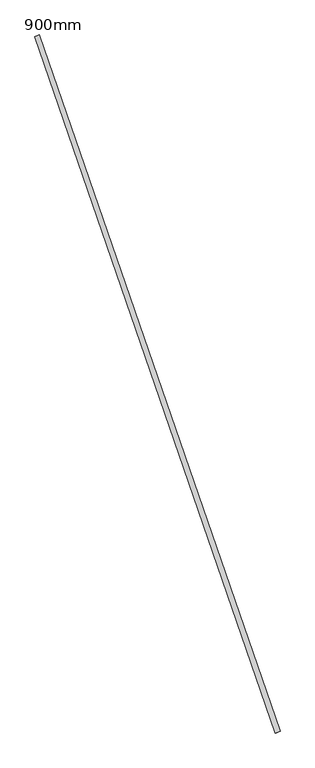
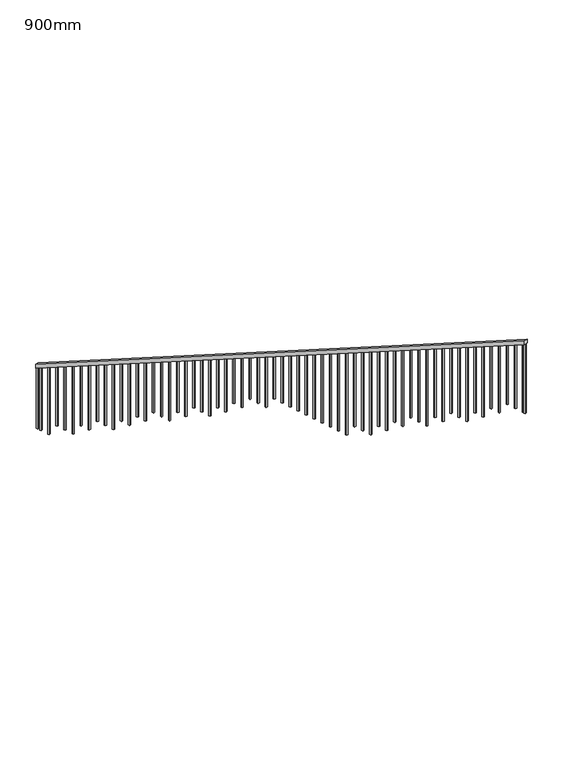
"""IFC4 building model written with IfcOpenShell, lengths in millimetres: railing geometry, 900mm."""

from ifc_helpers import new_model, si_unit, frame, origin, place, context, project, spatial, polyline, outline, extrude, source, transform, mapped, element, save


def railing_900mm_f19e5628(model_context):
    return source(origin(), model_context, "Body", "SweptSolid", [
        extrude(outline(polyline([(25.1552795, -49.9999999), (0.0, 0.0), (8507.6398583, 0.0), (8532.7951378, -50.0), (25.1552795, -49.9999999)])), frame((503059.9445463, 37388.9550801, 1045.2709212), z_axis=(0.9452094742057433, 0.3264644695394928, 0.0), x_axis=(0.2916355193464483, -0.8443695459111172, 0.44943163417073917)), (0.0, 0.0, 1.0), 50.0),
        extrude(outline(polyline([(1076.0939025, 20.0), (1076.0939025, 0.0), (94.9689441, 0.0), (105.0310559, 20.0), (1076.0939025, 20.0)])), frame((505546.274884, 30236.2533037, 4950.006946), z_axis=(0.9452094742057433, 0.3264644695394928, 0.0), x_axis=(0.0, 0.0, -1.0)), (0.0, 0.0, 1.0), 20.0),
        extrude(outline(polyline([(1013.2057038, 20.0), (1013.2057038, 0.0), (94.9689441, 0.0), (105.0310559, 20.0), (1013.2057038, 20.0)])), frame((505505.4668253, 30354.404488, 4887.1187473), z_axis=(0.9452094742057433, 0.3264644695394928, 0.0), x_axis=(0.0, 0.0, -1.0)), (0.0, 0.0, 1.0), 20.0),
        extrude(outline(polyline([(950.317505, 20.0), (950.317505, 0.0), (94.9689441, 0.0), (105.0310559, 20.0), (950.317505, 20.0)])), frame((505464.6587667, 30472.5556723, 4824.2305485), z_axis=(0.9452094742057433, 0.3264644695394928, 0.0), x_axis=(0.0, 0.0, -1.0)), (0.0, 0.0, 1.0), 20.0),
        extrude(outline(polyline([(1063.5162627, 20.0), (1063.5162627, 0.0), (94.9689441, 0.0), (105.0310559, 20.0), (1063.5162627, 20.0)])), frame((505423.850708, 30590.7068566, 4761.3423497), z_axis=(0.9452094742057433, 0.3264644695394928, 0.0), x_axis=(0.0, 0.0, -1.0)), (0.0, 0.0, 1.0), 20.0),
        extrude(outline(polyline([(1000.628064, 19.9999999), (1000.628064, 0.0), (94.9689441, 0.0), (105.0310559, 19.9999999), (1000.628064, 19.9999999)])), frame((505383.0426493, 30708.8580409, 4698.454151), z_axis=(0.9452094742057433, 0.3264644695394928, 0.0), x_axis=(0.0, 0.0, -1.0)), (0.0, 0.0, 1.0), 20.0),
        extrude(outline(polyline([(1113.8268218, 20.0), (1113.8268218, 0.0), (94.9689441, 0.0), (105.0310559, 20.0), (1113.8268218, 20.0)])), frame((505342.2345906, 30827.0092251, 4635.5659522), z_axis=(0.9452094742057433, 0.3264644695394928, 0.0), x_axis=(0.0, 0.0, -1.0)), (0.0, 0.0, 1.0), 20.0),
        extrude(outline(polyline([(1050.9386231, 20.0), (1050.9386231, 0.0), (94.9689441, 0.0), (105.0310559, 20.0), (1050.9386231, 20.0)])), frame((505301.4265319, 30945.1604094, 4572.6777535), z_axis=(0.9452094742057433, 0.3264644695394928, 0.0), x_axis=(0.0, 0.0, -1.0)), (0.0, 0.0, 1.0), 20.0),
        extrude(outline(polyline([(1164.1373808, 20.0), (1164.1373808, 0.0), (94.9689441, 0.0), (105.0310559, 20.0), (1164.1373808, 20.0)])), frame((505260.6184732, 31063.3115937, 4509.7895547), z_axis=(0.9452094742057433, 0.3264644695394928, 0.0), x_axis=(0.0, 0.0, -1.0)), (0.0, 0.0, 1.0), 20.0),
        extrude(outline(polyline([(1101.249182, 19.9999999), (1101.249182, 0.0), (94.9689441, 0.0), (105.0310559, 19.9999999), (1101.249182, 19.9999999)])), frame((505219.8104145, 31181.462778, 4446.9013559), z_axis=(0.9452094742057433, 0.3264644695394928, 0.0), x_axis=(0.0, 0.0, -1.0)), (0.0, 0.0, 1.0), 20.0),
        extrude(outline(polyline([(1038.3609833, 20.0), (1038.3609833, 0.0), (94.9689441, 0.0), (105.0310559, 20.0), (1038.3609833, 20.0)])), frame((505179.0023558, 31299.6139622, 4384.0131572), z_axis=(0.9452094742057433, 0.3264644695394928, 0.0), x_axis=(0.0, 0.0, -1.0)), (0.0, 0.0, 1.0), 20.0),
        extrude(outline(polyline([(1151.559741, 20.0), (1151.559741, 0.0), (94.9689441, 0.0), (105.0310559, 20.0), (1151.559741, 20.0)])), frame((505138.1942971, 31417.7651465, 4321.1249584), z_axis=(0.9452094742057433, 0.3264644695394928, 0.0), x_axis=(0.0, 0.0, -1.0)), (0.0, 0.0, 1.0), 20.0),
        extrude(outline(polyline([(1088.6715423, 20.0), (1088.6715423, 0.0), (94.9689441, 0.0), (105.0310559, 20.0), (1088.6715423, 20.0)])), frame((505097.3862384, 31535.9163308, 4258.2367597), z_axis=(0.9452094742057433, 0.3264644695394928, 0.0), x_axis=(0.0, 0.0, -1.0)), (0.0, 0.0, 1.0), 20.0),
        extrude(outline(polyline([(1201.8703, 19.9999999), (1201.8703, 0.0), (94.9689441, 0.0), (105.0310559, 19.9999999), (1201.8703, 19.9999999)])), frame((505056.5781797, 31654.0675151, 4195.3485609), z_axis=(0.9452094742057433, 0.3264644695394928, 0.0), x_axis=(0.0, 0.0, -1.0)), (0.0, 0.0, 1.0), 20.0),
        extrude(outline(polyline([(1138.9821013, 20.0), (1138.9821013, 0.0), (94.9689441, 0.0), (105.0310559, 20.0), (1138.9821013, 20.0)])), frame((505015.770121, 31772.2186993, 4132.4603622), z_axis=(0.9452094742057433, 0.3264644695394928, 0.0), x_axis=(0.0, 0.0, -1.0)), (0.0, 0.0, 1.0), 20.0),
        extrude(outline(polyline([(1076.0939025, 20.0), (1076.0939025, 0.0), (94.9689441, 0.0), (105.0310559, 20.0), (1076.0939025, 20.0)])), frame((504974.9620623, 31890.3698836, 4069.5721634), z_axis=(0.9452094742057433, 0.3264644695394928, 0.0), x_axis=(0.0, 0.0, -1.0)), (0.0, 0.0, 1.0), 20.0),
        extrude(outline(polyline([(1189.2926603, 20.0), (1189.2926603, 0.0), (94.9689441, 0.0), (105.0310559, 20.0), (1189.2926603, 20.0)])), frame((504934.1540037, 32008.5210679, 4006.6839646), z_axis=(0.9452094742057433, 0.3264644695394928, 0.0), x_axis=(0.0, 0.0, -1.0)), (0.0, 0.0, 1.0), 20.0),
        extrude(outline(polyline([(1126.4044616, 19.9999999), (1126.4044616, 0.0), (94.9689441, 0.0), (105.0310559, 19.9999999), (1126.4044616, 19.9999999)])), frame((504893.345945, 32126.6722522, 3943.7957659), z_axis=(0.9452094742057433, 0.3264644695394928, 0.0), x_axis=(0.0, 0.0, -1.0)), (0.0, 0.0, 1.0), 20.0),
        extrude(outline(polyline([(1239.6032193, 20.0), (1239.6032193, 0.0), (94.9689441, 0.0), (105.0310559, 20.0), (1239.6032193, 20.0)])), frame((504852.5378863, 32244.8234364, 3880.9075671), z_axis=(0.9452094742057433, 0.3264644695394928, 0.0), x_axis=(0.0, 0.0, -1.0)), (0.0, 0.0, 1.0), 20.0),
        extrude(outline(polyline([(1176.7150206, 20.0), (1176.7150206, 0.0), (94.9689441, 0.0), (105.0310559, 20.0), (1176.7150206, 20.0)])), frame((504811.7298276, 32362.9746207, 3818.0193684), z_axis=(0.9452094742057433, 0.3264644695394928, 0.0), x_axis=(0.0, 0.0, -1.0)), (0.0, 0.0, 1.0), 20.0),
        extrude(outline(polyline([(1289.9137783, 20.0), (1289.9137783, 0.0), (94.9689441, 0.0), (105.0310559, 20.0), (1289.9137783, 20.0)])), frame((504770.9217689, 32481.125805, 3755.1311696), z_axis=(0.9452094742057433, 0.3264644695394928, 0.0), x_axis=(0.0, 0.0, -1.0)), (0.0, 0.0, 1.0), 20.0),
        extrude(outline(polyline([(1227.0255796, 19.9999999), (1227.0255796, 0.0), (94.9689441, 0.0), (105.0310559, 19.9999999), (1227.0255796, 19.9999999)])), frame((504730.1137102, 32599.2769893, 3692.2429709), z_axis=(0.9452094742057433, 0.3264644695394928, 0.0), x_axis=(0.0, 0.0, -1.0)), (0.0, 0.0, 1.0), 20.0),
        extrude(outline(polyline([(1164.1373808, 20.0), (1164.1373808, 0.0), (94.9689441, 0.0), (105.0310559, 20.0), (1164.1373808, 20.0)])), frame((504689.3056515, 32717.4281735, 3629.3547721), z_axis=(0.9452094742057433, 0.3264644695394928, 0.0), x_axis=(0.0, 0.0, -1.0)), (0.0, 0.0, 1.0), 20.0),
        extrude(outline(polyline([(1277.3361385, 20.0), (1277.3361385, 0.0), (94.9689441, 0.0), (105.0310559, 20.0), (1277.3361385, 20.0)])), frame((504648.4975928, 32835.5793578, 3566.4665733), z_axis=(0.9452094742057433, 0.3264644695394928, 0.0), x_axis=(0.0, 0.0, -1.0)), (0.0, 0.0, 1.0), 20.0),
        extrude(outline(polyline([(1214.4479398, 20.0), (1214.4479398, 0.0), (94.9689441, 0.0), (105.0310559, 20.0), (1214.4479398, 20.0)])), frame((504607.6895341, 32953.7305421, 3503.5783746), z_axis=(0.9452094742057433, 0.3264644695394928, 0.0), x_axis=(0.0, 0.0, -1.0)), (0.0, 0.0, 1.0), 20.0),
        extrude(outline(polyline([(1151.559741, 20.0), (1151.559741, 0.0), (94.9689441, 0.0), (105.0310559, 20.0), (1151.559741, 20.0)])), frame((504566.8814754, 33071.8817264, 3440.6901758), z_axis=(0.9452094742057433, 0.3264644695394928, 0.0), x_axis=(0.0, 0.0, -1.0)), (0.0, 0.0, 1.0), 20.0),
        extrude(outline(polyline([(1088.6715423, 20.0), (1088.6715423, 0.0), (94.9689441, 0.0), (105.0310559, 20.0), (1088.6715423, 20.0)])), frame((504526.0734167, 33190.0329106, 3377.8019771), z_axis=(0.9452094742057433, 0.3264644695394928, 0.0), x_axis=(0.0, 0.0, -1.0)), (0.0, 0.0, 1.0), 20.0),
        extrude(outline(polyline([(1025.7833435, 20.0), (1025.7833435, 0.0), (94.9689441, 0.0), (105.0310559, 20.0), (1025.7833435, 20.0)])), frame((504485.265358, 33308.1840949, 3314.9137783), z_axis=(0.9452094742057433, 0.3264644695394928, 0.0), x_axis=(0.0, 0.0, -1.0)), (0.0, 0.0, 1.0), 20.0),
        extrude(outline(polyline([(962.8951448, 20.0), (962.8951448, 0.0), (94.9689441, 0.0), (105.0310559, 20.0), (962.8951448, 20.0)])), frame((504444.4572993, 33426.3352792, 3252.0255796), z_axis=(0.9452094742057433, 0.3264644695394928, 0.0), x_axis=(0.0, 0.0, -1.0)), (0.0, 0.0, 1.0), 20.0),
        extrude(outline(polyline([(900.006946, 20.0), (900.006946, 0.0), (94.9689441, 0.0), (105.0310559, 20.0), (900.006946, 20.0)])), frame((504403.6492407, 33544.4864635, 3189.1373808), z_axis=(0.9452094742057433, 0.3264644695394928, 0.0), x_axis=(0.0, 0.0, -1.0)), (0.0, 0.0, 1.0), 20.0),
        extrude(outline(polyline([(837.1187472, 20.0), (837.1187472, 0.0), (94.9689441, 0.0), (105.0310559, 20.0), (837.1187472, 20.0)])), frame((504362.841182, 33662.6376477, 3126.249182), z_axis=(0.9452094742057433, 0.3264644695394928, 0.0), x_axis=(0.0, 0.0, -1.0)), (0.0, 0.0, 1.0), 20.0),
        extrude(outline(polyline([(774.2305485, 20.0), (774.2305485, 0.0), (94.9689441, 0.0), (105.0310559, 20.0), (774.2305485, 20.0)])), frame((504322.0331233, 33780.788832, 3063.3609833), z_axis=(0.9452094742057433, 0.3264644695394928, 0.0), x_axis=(0.0, 0.0, -1.0)), (0.0, 0.0, 1.0), 20.0),
        extrude(outline(polyline([(711.3423497, 20.0), (711.3423497, 0.0), (94.9689441, 0.0), (105.0310559, 20.0), (711.3423497, 20.0)])), frame((504281.2250646, 33898.9400163, 3000.4727845), z_axis=(0.9452094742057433, 0.3264644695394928, 0.0), x_axis=(0.0, 0.0, -1.0)), (0.0, 0.0, 1.0), 20.0),
        extrude(outline(polyline([(824.5411075, 20.0), (824.5411075, 0.0), (94.9689441, 0.0), (105.0310559, 20.0), (824.5411075, 20.0)])), frame((504240.4170059, 34017.0912006, 2937.5845858), z_axis=(0.9452094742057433, 0.3264644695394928, 0.0), x_axis=(0.0, 0.0, -1.0)), (0.0, 0.0, 1.0), 20.0),
        extrude(outline(polyline([(761.6529087, 20.0), (761.6529087, 0.0), (94.9689441, 0.0), (105.0310559, 20.0), (761.6529087, 20.0)])), frame((504199.6089472, 34135.2423848, 2874.696387), z_axis=(0.9452094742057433, 0.3264644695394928, 0.0), x_axis=(0.0, 0.0, -1.0)), (0.0, 0.0, 1.0), 20.0),
        extrude(outline(polyline([(698.7647099, 20.0), (698.7647099, 0.0), (94.9689441, 0.0), (105.0310559, 20.0), (698.7647099, 20.0)])), frame((504158.8008885, 34253.3935691, 2811.8081882), z_axis=(0.9452094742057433, 0.3264644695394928, 0.0), x_axis=(0.0, 0.0, -1.0)), (0.0, 0.0, 1.0), 20.0),
        extrude(outline(polyline([(811.9634678, 20.0), (811.9634678, 0.0), (94.9689441, 0.0), (105.0310559, 20.0), (811.9634678, 20.0)])), frame((504117.9928298, 34371.5447534, 2748.9199895), z_axis=(0.9452094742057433, 0.3264644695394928, 0.0), x_axis=(0.0, 0.0, -1.0)), (0.0, 0.0, 1.0), 20.0),
        extrude(outline(polyline([(749.075269, 20.0), (749.075269, 0.0), (94.9689441, 0.0), (105.0310559, 20.0), (749.075269, 20.0)])), frame((504077.1847711, 34489.6959377, 2686.0317907), z_axis=(0.9452094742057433, 0.3264644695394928, 0.0), x_axis=(0.0, 0.0, -1.0)), (0.0, 0.0, 1.0), 20.0),
        extrude(outline(polyline([(862.2740268, 19.9999999), (862.2740268, 0.0), (94.9689441, 0.0), (105.0310559, 19.9999999), (862.2740268, 19.9999999)])), frame((504036.3767124, 34607.847122, 2623.143592), z_axis=(0.9452094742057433, 0.3264644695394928, 0.0), x_axis=(0.0, 0.0, -1.0)), (0.0, 0.0, 1.0), 20.0),
        extrude(outline(polyline([(799.385828, 20.0), (799.385828, 0.0), (94.9689441, 0.0), (105.0310559, 20.0), (799.385828, 20.0)])), frame((503995.5686537, 34725.9983062, 2560.2553932), z_axis=(0.9452094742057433, 0.3264644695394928, 0.0), x_axis=(0.0, 0.0, -1.0)), (0.0, 0.0, 1.0), 20.0),
        extrude(outline(polyline([(912.5845858, 20.0), (912.5845858, 0.0), (94.9689441, 0.0), (105.0310559, 20.0), (912.5845858, 20.0)])), frame((503954.760595, 34844.1494905, 2497.3671945), z_axis=(0.9452094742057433, 0.3264644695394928, 0.0), x_axis=(0.0, 0.0, -1.0)), (0.0, 0.0, 1.0), 20.0),
        extrude(outline(polyline([(849.696387, 20.0), (849.696387, 0.0), (94.9689441, 0.0), (105.0310559, 20.0), (849.696387, 20.0)])), frame((503913.9525363, 34962.3006748, 2434.4789957), z_axis=(0.9452094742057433, 0.3264644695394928, 0.0), x_axis=(0.0, 0.0, -1.0)), (0.0, 0.0, 1.0), 20.0),
        extrude(outline(polyline([(786.8081882, 19.9999999), (786.8081882, 0.0), (94.9689441, 0.0), (105.0310559, 19.9999999), (786.8081882, 19.9999999)])), frame((503873.1444777, 35080.4518591, 2371.5907969), z_axis=(0.9452094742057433, 0.3264644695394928, 0.0), x_axis=(0.0, 0.0, -1.0)), (0.0, 0.0, 1.0), 20.0),
        extrude(outline(polyline([(900.006946, 20.0), (900.006946, 0.0), (94.9689441, 0.0), (105.0310559, 20.0), (900.006946, 20.0)])), frame((503832.336419, 35198.6030433, 2308.7025982), z_axis=(0.9452094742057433, 0.3264644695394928, 0.0), x_axis=(0.0, 0.0, -1.0)), (0.0, 0.0, 1.0), 20.0),
        extrude(outline(polyline([(837.1187472, 20.0), (837.1187472, 0.0), (94.9689441, 0.0), (105.0310559, 20.0), (837.1187472, 20.0)])), frame((503791.5283603, 35316.7542276, 2245.8143994), z_axis=(0.9452094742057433, 0.3264644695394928, 0.0), x_axis=(0.0, 0.0, -1.0)), (0.0, 0.0, 1.0), 20.0),
        extrude(outline(polyline([(950.317505, 20.0), (950.317505, 0.0), (94.9689441, 0.0), (105.0310559, 20.0), (950.317505, 20.0)])), frame((503750.7203016, 35434.9054119, 2182.9262007), z_axis=(0.9452094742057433, 0.3264644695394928, 0.0), x_axis=(0.0, 0.0, -1.0)), (0.0, 0.0, 1.0), 20.0),
        extrude(outline(polyline([(887.4293062, 19.9999999), (887.4293062, 0.0), (94.9689441, 0.0), (105.0310559, 19.9999999), (887.4293062, 19.9999999)])), frame((503709.9122429, 35553.0565962, 2120.0380019), z_axis=(0.9452094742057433, 0.3264644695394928, 0.0), x_axis=(0.0, 0.0, -1.0)), (0.0, 0.0, 1.0), 20.0),
        extrude(outline(polyline([(824.5411075, 20.0), (824.5411075, 0.0), (94.9689441, 0.0), (105.0310559, 20.0), (824.5411075, 20.0)])), frame((503669.1041842, 35671.2077804, 2057.1498032), z_axis=(0.9452094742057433, 0.3264644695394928, 0.0), x_axis=(0.0, 0.0, -1.0)), (0.0, 0.0, 1.0), 20.0),
        extrude(outline(polyline([(937.7398653, 20.0), (937.7398653, 0.0), (94.9689441, 0.0), (105.0310559, 20.0), (937.7398653, 20.0)])), frame((503628.2961255, 35789.3589647, 1994.2616044), z_axis=(0.9452094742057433, 0.3264644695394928, 0.0), x_axis=(0.0, 0.0, -1.0)), (0.0, 0.0, 1.0), 20.0),
        extrude(outline(polyline([(874.8516665, 20.0), (874.8516665, 0.0), (94.9689441, 0.0), (105.0310559, 20.0), (874.8516665, 20.0)])), frame((503587.4880668, 35907.510149, 1931.3734056), z_axis=(0.9452094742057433, 0.3264644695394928, 0.0), x_axis=(0.0, 0.0, -1.0)), (0.0, 0.0, 1.0), 20.0),
        extrude(outline(polyline([(988.0504243, 19.9999999), (988.0504243, 0.0), (94.9689441, 0.0), (105.0310559, 19.9999999), (988.0504243, 19.9999999)])), frame((503546.6800081, 36025.6613333, 1868.4852069), z_axis=(0.9452094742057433, 0.3264644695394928, 0.0), x_axis=(0.0, 0.0, -1.0)), (0.0, 0.0, 1.0), 20.0),
        extrude(outline(polyline([(925.1622255, 20.0), (925.1622255, 0.0), (94.9689441, 0.0), (105.0310559, 20.0), (925.1622255, 20.0)])), frame((503505.8719494, 36143.8125175, 1805.5970081), z_axis=(0.9452094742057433, 0.3264644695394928, 0.0), x_axis=(0.0, 0.0, -1.0)), (0.0, 0.0, 1.0), 20.0),
        extrude(outline(polyline([(1038.3609833, 20.0), (1038.3609833, 0.0), (94.9689441, 0.0), (105.0310559, 20.0), (1038.3609833, 20.0)])), frame((503465.0638907, 36261.9637018, 1742.7088094), z_axis=(0.9452094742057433, 0.3264644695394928, 0.0), x_axis=(0.0, 0.0, -1.0)), (0.0, 0.0, 1.0), 20.0),
        extrude(outline(polyline([(975.4727845, 20.0), (975.4727845, 0.0), (94.9689441, 0.0), (105.0310559, 20.0), (975.4727845, 20.0)])), frame((503424.255832, 36380.1148861, 1679.8206106), z_axis=(0.9452094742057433, 0.3264644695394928, 0.0), x_axis=(0.0, 0.0, -1.0)), (0.0, 0.0, 1.0), 20.0),
        extrude(outline(polyline([(912.5845858, 19.9999999), (912.5845858, 0.0), (94.9689441, 0.0), (105.031056, 19.9999999), (912.5845858, 19.9999999)])), frame((503383.4477733, 36498.2660704, 1616.9324119), z_axis=(0.9452094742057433, 0.3264644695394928, 0.0), x_axis=(0.0, 0.0, -1.0)), (0.0, 0.0, 1.0), 20.0),
        extrude(outline(polyline([(1025.7833435, 20.0), (1025.7833435, 0.0), (94.9689441, 0.0), (105.0310559, 20.0), (1025.7833435, 20.0)])), frame((503342.6397146, 36616.4172546, 1554.0442131), z_axis=(0.9452094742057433, 0.3264644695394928, 0.0), x_axis=(0.0, 0.0, -1.0)), (0.0, 0.0, 1.0), 20.0),
        extrude(outline(polyline([(962.8951447, 20.0), (962.8951447, 0.0), (94.9689441, 0.0), (105.0310559, 20.0), (962.8951447, 20.0)])), frame((503301.831656, 36734.5684389, 1491.1560143), z_axis=(0.9452094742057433, 0.3264644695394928, 0.0), x_axis=(0.0, 0.0, -1.0)), (0.0, 0.0, 1.0), 20.0),
        extrude(outline(polyline([(1076.0939026, 20.0), (1076.0939026, 0.0), (94.9689441, 0.0), (105.0310559, 20.0), (1076.0939026, 20.0)])), frame((503261.0235973, 36852.7196232, 1428.2678156), z_axis=(0.9452094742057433, 0.3264644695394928, 0.0), x_axis=(0.0, 0.0, -1.0)), (0.0, 0.0, 1.0), 20.0),
        extrude(outline(polyline([(1013.2057038, 19.9999999), (1013.2057038, 0.0), (94.9689441, 0.0), (105.0310559, 19.9999999), (1013.2057038, 19.9999999)])), frame((503220.2155386, 36970.8708075, 1365.3796168), z_axis=(0.9452094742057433, 0.3264644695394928, 0.0), x_axis=(0.0, 0.0, -1.0)), (0.0, 0.0, 1.0), 20.0),
        extrude(outline(polyline([(950.3175051, 20.0), (950.3175051, 0.0), (94.9689441, 0.0), (105.0310559, 20.0), (950.3175051, 20.0)])), frame((503179.4074799, 37089.0219917, 1302.4914181), z_axis=(0.9452094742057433, 0.3264644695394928, 0.0), x_axis=(0.0, 0.0, -1.0)), (0.0, 0.0, 1.0), 20.0),
        extrude(outline(polyline([(1063.5162628, 20.0), (1063.5162628, 0.0), (94.9689441, 0.0), (105.0310559, 20.0), (1063.5162628, 20.0)])), frame((503138.5994212, 37207.173176, 1239.6032193), z_axis=(0.9452094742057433, 0.3264644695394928, 0.0), x_axis=(0.0, 0.0, -1.0)), (0.0, 0.0, 1.0), 20.0),
        extrude(outline(polyline([(1000.628064, 20.0), (1000.628064, 0.0), (94.9689441, 0.0), (105.0310559, 20.0), (1000.628064, 20.0)])), frame((503097.7913625, 37325.3243603, 1176.7150205), z_axis=(0.9452094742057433, 0.3264644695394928, 0.0), x_axis=(0.0, 0.0, -1.0)), (0.0, 0.0, 1.0), 20.0),
        extrude(outline(polyline([(1089.9293062, 20.0), (1089.9293062, 0.0), (94.9689441, 0.0), (105.0310559, 20.0), (1089.9293062, 20.0)])), frame((505555.252657, 30210.2600432, 4963.8423497), z_axis=(0.9452094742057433, 0.3264644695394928, 0.0), x_axis=(0.0, 0.0, -1.0)), (0.0, 0.0, 1.0), 20.0),
        extrude(outline(polyline([(974.2150206, 20.0), (974.2150206, 0.0), (94.9689441, 0.0), (105.0310559, 20.0), (974.2150206, 20.0)])), frame((503080.6519778, 37374.9478577, 1150.3019771), z_axis=(0.9452094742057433, 0.3264644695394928, 0.0), x_axis=(0.0, 0.0, -1.0)), (0.0, 0.0, 1.0), 20.0),
    ])


if __name__ == "__main__":
    model = new_model("IFC4")
    model_context = context("Model", 3, world=origin())
    ifc_project = project(units=[si_unit("LENGTHUNIT", "METRE", prefix="MILLI")], contexts=[model_context])
    site = spatial("IfcSite", under=ifc_project)
    building = spatial("IfcBuilding", under=site)
    placement = place(None, origin())
    railing_900mm_shape = railing_900mm_f19e5628(model_context)
    element("IfcRailing", 1, ObjectType="900mm", at=placement, inside=building, context=model_context, shape_type="MappedRepresentation", body=[
        mapped(railing_900mm_shape, transform((0.0, 0.0, 0.0), x_axis=(1.0, 0.0, 0.0), y_axis=(0.0, 1.0, 0.0), z_axis=(0.0, 0.0, 1.0))),
    ])
    save(model, "model.ifc")
